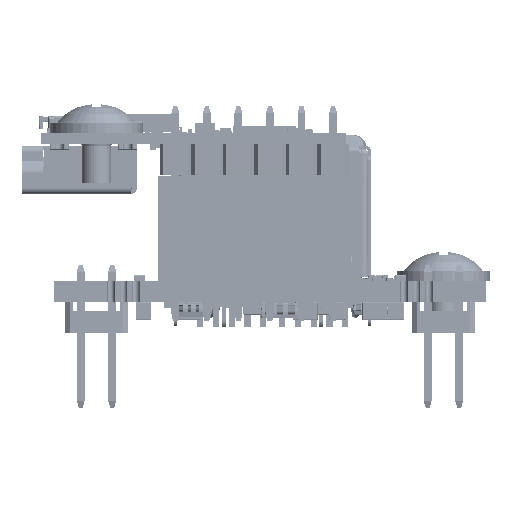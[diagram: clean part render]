
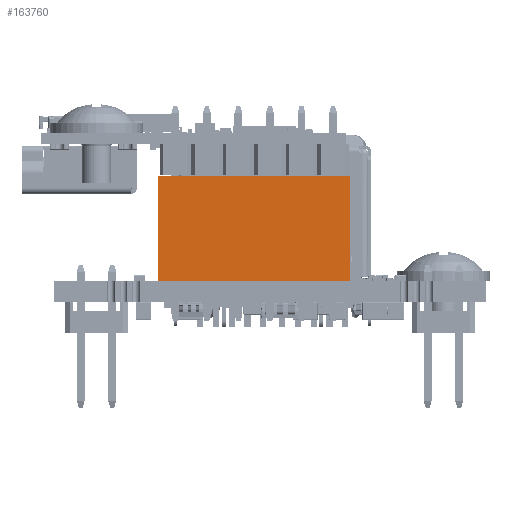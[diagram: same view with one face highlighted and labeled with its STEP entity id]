
A CAD part, front view. The second image highlights one B-rep face of the part: STEP entity #163760.
In plain terms, the highlighted planar face has unit normal (0, -1, 0) as drawn and (0, 0, 1) by its records, which use the part's own axes.
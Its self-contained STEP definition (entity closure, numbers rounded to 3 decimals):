
#156953 = VERTEX_POINT('',#156954);
#156954 = CARTESIAN_POINT('',(7.745,0.,2.5));
#156960 = EDGE_CURVE('',#156961,#156953,#156963,.T.);
#156961 = VERTEX_POINT('',#156962);
#156962 = CARTESIAN_POINT('',(-7.745,0.,2.5));
#156963 = LINE('',#156964,#156965);
#156964 = CARTESIAN_POINT('',(-7.745,0.,2.5));
#156965 = VECTOR('',#156966,1.);
#156966 = DIRECTION('',(1.,0.,0.));
#163760 = ADVANCED_FACE('',(#163761),#163786,.T.);
#163761 = FACE_BOUND('',#163762,.T.);
#163762 = EDGE_LOOP('',(#163763,#163771,#163779,#163785));
#163763 = ORIENTED_EDGE('',*,*,#163764,.T.);
#163764 = EDGE_CURVE('',#156953,#163765,#163767,.T.);
#163765 = VERTEX_POINT('',#163766);
#163766 = CARTESIAN_POINT('',(7.745,8.5,2.5));
#163767 = LINE('',#163768,#163769);
#163768 = CARTESIAN_POINT('',(7.745,0.,2.5));
#163769 = VECTOR('',#163770,1.);
#163770 = DIRECTION('',(0.,1.,0.));
#163771 = ORIENTED_EDGE('',*,*,#163772,.F.);
#163772 = EDGE_CURVE('',#163773,#163765,#163775,.T.);
#163773 = VERTEX_POINT('',#163774);
#163774 = CARTESIAN_POINT('',(-7.745,8.5,2.5));
#163775 = LINE('',#163776,#163777);
#163776 = CARTESIAN_POINT('',(-7.745,8.5,2.5));
#163777 = VECTOR('',#163778,1.);
#163778 = DIRECTION('',(1.,0.,0.));
#163779 = ORIENTED_EDGE('',*,*,#163780,.F.);
#163780 = EDGE_CURVE('',#156961,#163773,#163781,.T.);
#163781 = LINE('',#163782,#163783);
#163782 = CARTESIAN_POINT('',(-7.745,0.,2.5));
#163783 = VECTOR('',#163784,1.);
#163784 = DIRECTION('',(0.,1.,0.));
#163785 = ORIENTED_EDGE('',*,*,#156960,.T.);
#163786 = PLANE('',#163787);
#163787 = AXIS2_PLACEMENT_3D('',#163788,#163789,#163790);
#163788 = CARTESIAN_POINT('',(-7.745,0.,2.5));
#163789 = DIRECTION('',(0.,0.,1.));
#163790 = DIRECTION('',(0.,-1.,0.));
